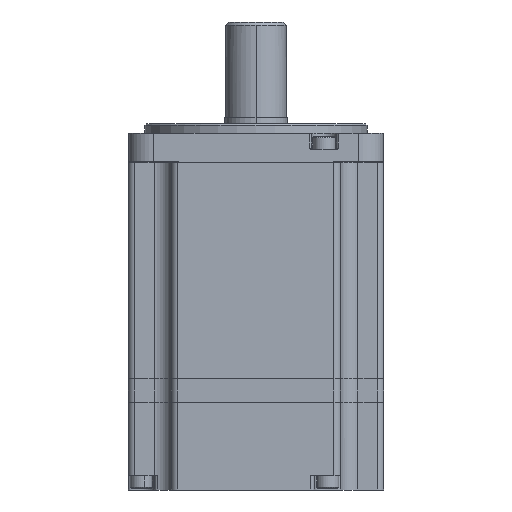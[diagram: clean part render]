
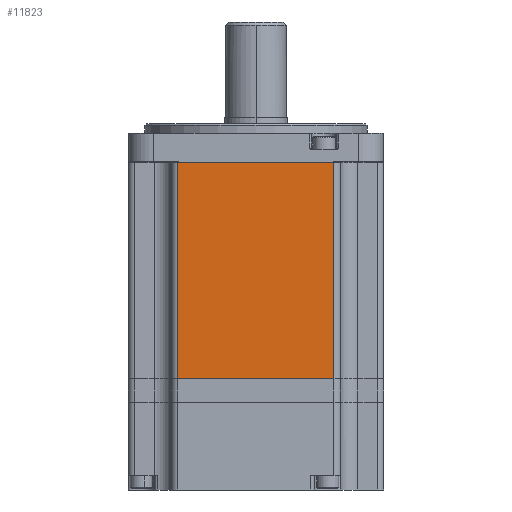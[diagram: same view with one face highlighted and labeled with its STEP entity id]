
A CAD part, front view. The second image highlights one B-rep face of the part: STEP entity #11823.
In plain terms, the highlighted planar face has unit normal (0, -1, 0).
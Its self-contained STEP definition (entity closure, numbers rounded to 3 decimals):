
#1014 = EDGE_CURVE ( 'NONE', #40326, #35952, #42069, .T. ) ;
#1098 = EDGE_CURVE ( 'NONE', #40357, #40328, #42122, .T. ) ;
#1115 = EDGE_CURVE ( 'NONE', #40326, #40357, #42135, .T. ) ;
#1117 = EDGE_CURVE ( 'NONE', #40328, #35952, #42137, .T. ) ;
#5861 = EDGE_LOOP ( 'NONE', ( #31576, #31577, #31578, #31579 ) ) ;
#11823 = ADVANCED_FACE ( 'NONE', ( #25176 ), #27055, .F. ) ;
#20972 = CARTESIAN_POINT ( 'NONE',  ( 24.5, -40.1, 68. ) ) ;
#21419 = CARTESIAN_POINT ( 'NONE',  ( -24.5, -40.1, 68. ) ) ;
#21421 = CARTESIAN_POINT ( 'NONE',  ( 24.5, -40.1, 0. ) ) ;
#21451 = CARTESIAN_POINT ( 'NONE',  ( -24.5, -40.1, 0. ) ) ;
#25176 = FACE_OUTER_BOUND ( 'NONE', #5861, .T. ) ;
#26005 = AXIS2_PLACEMENT_3D ( 'NONE', #27048, #27057, #27058 ) ;
#27048 = CARTESIAN_POINT ( 'NONE',  ( -40.1, -40.1, 68. ) ) ;
#27055 = PLANE ( 'NONE',  #26005 ) ;
#27057 = DIRECTION ( 'NONE',  ( 0., 1., 0. ) ) ;
#27058 = DIRECTION ( 'NONE',  ( 0., 0., 1. ) ) ;
#31576 = ORIENTED_EDGE ( 'NONE', *, *, #1014, .F. ) ;
#31577 = ORIENTED_EDGE ( 'NONE', *, *, #1115, .T. ) ;
#31578 = ORIENTED_EDGE ( 'NONE', *, *, #1098, .T. ) ;
#31579 = ORIENTED_EDGE ( 'NONE', *, *, #1117, .T. ) ;
#35952 = VERTEX_POINT ( 'NONE', #20972 ) ;
#40326 = VERTEX_POINT ( 'NONE', #21419 ) ;
#40328 = VERTEX_POINT ( 'NONE', #21421 ) ;
#40357 = VERTEX_POINT ( 'NONE', #21451 ) ;
#42069 = LINE ( 'NONE', #43498, #42071 ) ;
#42071 = VECTOR ( 'NONE', #43497, 1000. ) ;
#42122 = LINE ( 'NONE', #43672, #42127 ) ;
#42127 = VECTOR ( 'NONE', #43668, 1000. ) ;
#42135 = LINE ( 'NONE', #43695, #42140 ) ;
#42137 = LINE ( 'NONE', #43717, #42142 ) ;
#42140 = VECTOR ( 'NONE', #43724, 1000. ) ;
#42142 = VECTOR ( 'NONE', #43728, 1000. ) ;
#43497 = DIRECTION ( 'NONE',  ( 1., 0., 0. ) ) ;
#43498 = CARTESIAN_POINT ( 'NONE',  ( -40.1, -40.1, 68. ) ) ;
#43668 = DIRECTION ( 'NONE',  ( 1., 0., 0. ) ) ;
#43672 = CARTESIAN_POINT ( 'NONE',  ( -40.1, -40.1, 0. ) ) ;
#43695 = CARTESIAN_POINT ( 'NONE',  ( -24.5, -40.1, 68. ) ) ;
#43717 = CARTESIAN_POINT ( 'NONE',  ( 24.5, -40.1, 68. ) ) ;
#43724 = DIRECTION ( 'NONE',  ( 0., 0., -1. ) ) ;
#43728 = DIRECTION ( 'NONE',  ( 0., 0., 1. ) ) ;
